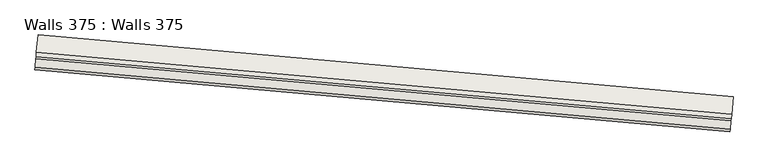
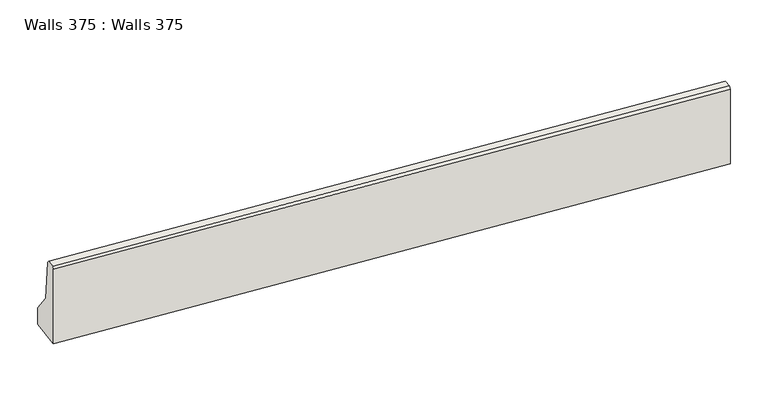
"""IFC4 building model written with IfcOpenShell, lengths in millimetres: wall geometry, Walls 375 : Walls 375."""

from ifc_helpers import new_model, si_unit, frame, origin, place, context, project, spatial, polyline, outline, extrude, source, transform, mapped, element, save


def walls_375_walls_375_a70135a7(model_context):
    return source(origin(), model_context, "Body", "SweptSolid", [
        extrude(outline(polyline([(637180.0, 400.0), (637430.0, 200.0), (637935.0, 150.0000001), (637960.0, 125.0), (637960.0, 25.0), (637935.0, 0.0), (636960.0, 0.0), (636960.0, 400.0), (637180.0, 400.0)])), frame((-650763.808048, -421104.7538288, 0.0), z_axis=(-0.9960550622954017, 0.08873732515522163, 0.0), x_axis=(0.0, 0.0, 1.0)), (0.0, 0.0, 1.0), 7999.9999999),
    ])


if __name__ == "__main__":
    model = new_model("IFC4")
    model_context = context("Model", 3, world=origin())
    ifc_project = project(units=[si_unit("LENGTHUNIT", "METRE", prefix="MILLI")], contexts=[model_context])
    site = spatial("IfcSite", under=ifc_project)
    building = spatial("IfcBuilding", under=site)
    placement = place(None, origin())
    walls_375_walls_375_shape = walls_375_walls_375_a70135a7(model_context)
    element("IfcWall", 1, ObjectType="Walls 375 : Walls 375", at=placement, inside=building, context=model_context, shape_type="MappedRepresentation", body=[
        mapped(walls_375_walls_375_shape, transform((0.0, 0.0, 0.0), x_axis=(1.0, 0.0, 0.0), y_axis=(0.0, 1.0, 0.0), z_axis=(0.0, 0.0, 1.0))),
    ])
    save(model, "model.ifc")
